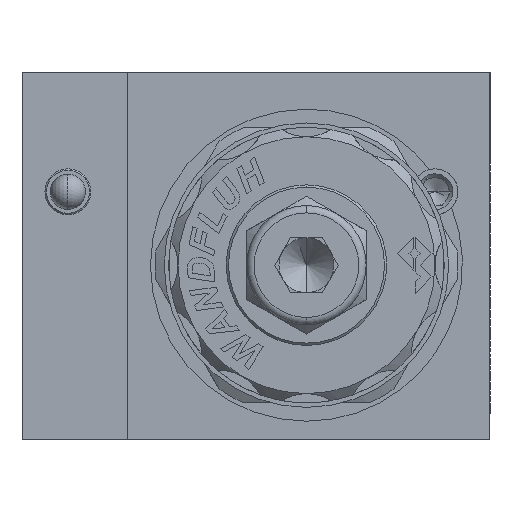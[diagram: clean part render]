
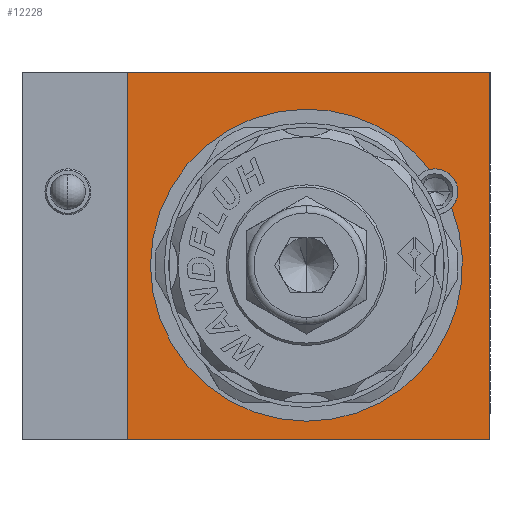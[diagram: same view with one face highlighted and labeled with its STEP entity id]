
A CAD part, left-side view. The second image highlights one B-rep face of the part: STEP entity #12228.
In plain terms, the highlighted planar face has unit normal (-1, 0, 0).
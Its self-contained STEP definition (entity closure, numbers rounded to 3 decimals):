
#323 = ORIENTED_EDGE ( 'NONE', *, *, #19215, .F. ) ;
#442 = CARTESIAN_POINT ( 'NONE',  ( 0., 19.75, 20. ) ) ;
#601 = CIRCLE ( 'NONE', #4697, 17. ) ;
#711 = ORIENTED_EDGE ( 'NONE', *, *, #22920, .F. ) ;
#875 = CARTESIAN_POINT ( 'NONE',  ( 0., -19.75, 20. ) ) ;
#1201 = CARTESIAN_POINT ( 'NONE',  ( 0., 0.25, -1. ) ) ;
#1393 = DIRECTION ( 'NONE',  ( 0., 0., 1. ) ) ;
#1417 = CARTESIAN_POINT ( 'NONE',  ( 0., -19.75, 20. ) ) ;
#1755 = AXIS2_PLACEMENT_3D ( 'NONE', #3138, #21726, #22524 ) ;
#2052 = LINE ( 'NONE', #17813, #20428 ) ;
#2518 = EDGE_CURVE ( 'NONE', #13546, #6120, #17098, .T. ) ;
#3022 = VERTEX_POINT ( 'NONE', #10618 ) ;
#3037 = DIRECTION ( 'NONE',  ( 0., 0., 1. ) ) ;
#3138 = CARTESIAN_POINT ( 'NONE',  ( 0., -13.75, 7. ) ) ;
#3193 = EDGE_LOOP ( 'NONE', ( #12906, #11327, #7711, #711, #7517 ) ) ;
#3225 = CARTESIAN_POINT ( 'NONE',  ( 0., 19.75, -20. ) ) ;
#4313 = DIRECTION ( 'NONE',  ( -1., 0., 0. ) ) ;
#4401 = CARTESIAN_POINT ( 'NONE',  ( 0., 0.25, -1. ) ) ;
#4697 = AXIS2_PLACEMENT_3D ( 'NONE', #1201, #13858, #3037 ) ;
#4778 = EDGE_LOOP ( 'NONE', ( #12713, #323, #7525, #12067 ) ) ;
#4795 = EDGE_CURVE ( 'NONE', #7055, #13546, #7832, .T. ) ;
#4852 = PLANE ( 'NONE',  #14893 ) ;
#5118 = LINE ( 'NONE', #875, #18689 ) ;
#5388 = DIRECTION ( 'NONE',  ( 0., 1., 0. ) ) ;
#6120 = VERTEX_POINT ( 'NONE', #7602 ) ;
#6165 = DIRECTION ( 'NONE',  ( 0., 0., 1. ) ) ;
#6646 = AXIS2_PLACEMENT_3D ( 'NONE', #4401, #16876, #6165 ) ;
#6756 = DIRECTION ( 'NONE',  ( 1., 0., 0. ) ) ;
#7055 = VERTEX_POINT ( 'NONE', #14738 ) ;
#7385 = FACE_OUTER_BOUND ( 'NONE', #4778, .T. ) ;
#7517 = ORIENTED_EDGE ( 'NONE', *, *, #2518, .F. ) ;
#7525 = ORIENTED_EDGE ( 'NONE', *, *, #20402, .F. ) ;
#7602 = CARTESIAN_POINT ( 'NONE',  ( 0., -13.173, 9.432 ) ) ;
#7711 = ORIENTED_EDGE ( 'NONE', *, *, #10826, .F. ) ;
#7760 = CARTESIAN_POINT ( 'NONE',  ( 0., 19.75, -20. ) ) ;
#7782 = CARTESIAN_POINT ( 'NONE',  ( 0., -13.75, 7. ) ) ;
#7832 = CIRCLE ( 'NONE', #8618, 2.5 ) ;
#8618 = AXIS2_PLACEMENT_3D ( 'NONE', #7782, #20172, #9630 ) ;
#9332 = CARTESIAN_POINT ( 'NONE',  ( 0., -19.75, -20. ) ) ;
#9630 = DIRECTION ( 'NONE',  ( 0., 0., 1. ) ) ;
#9938 = DIRECTION ( 'NONE',  ( 0., -1., 0. ) ) ;
#10135 = VECTOR ( 'NONE', #1393, 1000. ) ;
#10618 = CARTESIAN_POINT ( 'NONE',  ( 0., 0.25, 16. ) ) ;
#10826 = EDGE_CURVE ( 'NONE', #3022, #19661, #13506, .T. ) ;
#10935 = AXIS2_PLACEMENT_3D ( 'NONE', #15034, #4313, #16787 ) ;
#11327 = ORIENTED_EDGE ( 'NONE', *, *, #23175, .F. ) ;
#12067 = ORIENTED_EDGE ( 'NONE', *, *, #21681, .F. ) ;
#12228 = ADVANCED_FACE ( 'NONE', ( #7385, #12265 ), #4852, .F. ) ;
#12265 = FACE_BOUND ( 'NONE', #3193, .T. ) ;
#12487 = LINE ( 'NONE', #18355, #17095 ) ;
#12713 = ORIENTED_EDGE ( 'NONE', *, *, #13450, .F. ) ;
#12906 = ORIENTED_EDGE ( 'NONE', *, *, #4795, .F. ) ;
#13450 = EDGE_CURVE ( 'NONE', #16826, #22010, #5118, .T. ) ;
#13506 = CIRCLE ( 'NONE', #6646, 17. ) ;
#13546 = VERTEX_POINT ( 'NONE', #18894 ) ;
#13698 = CARTESIAN_POINT ( 'NONE',  ( 0., 0.25, -18. ) ) ;
#13858 = DIRECTION ( 'NONE',  ( -1., 0., 0. ) ) ;
#14738 = CARTESIAN_POINT ( 'NONE',  ( 0., -15.552, 5.268 ) ) ;
#14893 = AXIS2_PLACEMENT_3D ( 'NONE', #17459, #6756, #19172 ) ;
#15034 = CARTESIAN_POINT ( 'NONE',  ( 0., 0.25, -1. ) ) ;
#15468 = VERTEX_POINT ( 'NONE', #7760 ) ;
#16629 = DIRECTION ( 'NONE',  ( 0., 0., -1. ) ) ;
#16787 = DIRECTION ( 'NONE',  ( 0., 0., 1. ) ) ;
#16826 = VERTEX_POINT ( 'NONE', #442 ) ;
#16876 = DIRECTION ( 'NONE',  ( -1., 0., 0. ) ) ;
#17095 = VECTOR ( 'NONE', #16629, 1000. ) ;
#17098 = CIRCLE ( 'NONE', #1755, 2.5 ) ;
#17459 = CARTESIAN_POINT ( 'NONE',  ( 0., 19.75, 20. ) ) ;
#17813 = CARTESIAN_POINT ( 'NONE',  ( 0., -19.75, -20. ) ) ;
#18355 = CARTESIAN_POINT ( 'NONE',  ( 0., -19.75, -20. ) ) ;
#18689 = VECTOR ( 'NONE', #9938, 1000. ) ;
#18894 = CARTESIAN_POINT ( 'NONE',  ( 0., -13.75, 9.5 ) ) ;
#19172 = DIRECTION ( 'NONE',  ( 0., 0., -1. ) ) ;
#19215 = EDGE_CURVE ( 'NONE', #15468, #16826, #19450, .T. ) ;
#19450 = LINE ( 'NONE', #3225, #10135 ) ;
#19661 = VERTEX_POINT ( 'NONE', #13698 ) ;
#20172 = DIRECTION ( 'NONE',  ( -1., 0., 0. ) ) ;
#20402 = EDGE_CURVE ( 'NONE', #20593, #15468, #2052, .T. ) ;
#20428 = VECTOR ( 'NONE', #5388, 1000. ) ;
#20593 = VERTEX_POINT ( 'NONE', #9332 ) ;
#21681 = EDGE_CURVE ( 'NONE', #22010, #20593, #12487, .T. ) ;
#21726 = DIRECTION ( 'NONE',  ( -1., 0., 0. ) ) ;
#21886 = CIRCLE ( 'NONE', #10935, 17. ) ;
#22010 = VERTEX_POINT ( 'NONE', #1417 ) ;
#22524 = DIRECTION ( 'NONE',  ( 0., 0., 1. ) ) ;
#22920 = EDGE_CURVE ( 'NONE', #6120, #3022, #601, .T. ) ;
#23175 = EDGE_CURVE ( 'NONE', #19661, #7055, #21886, .T. ) ;
